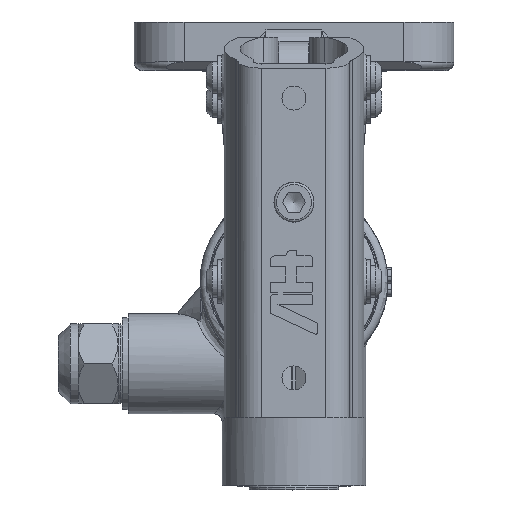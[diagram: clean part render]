
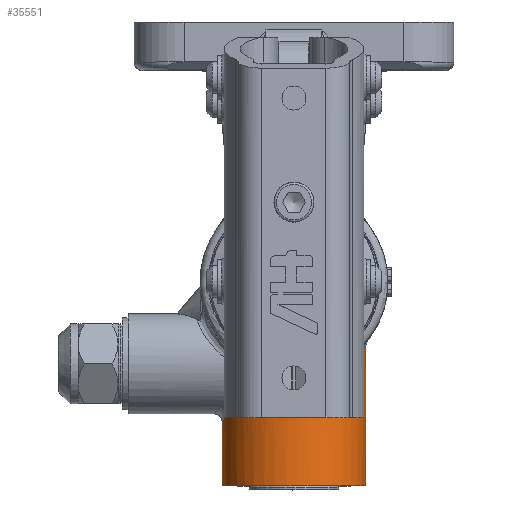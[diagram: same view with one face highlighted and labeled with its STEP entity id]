
A CAD part, top view. The second image highlights one B-rep face of the part: STEP entity #35551.
In plain terms, the highlighted cylindrical face has radius 18 mm (diameter 36 mm), a full revolution.
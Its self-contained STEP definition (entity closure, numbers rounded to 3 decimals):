
#16715=CARTESIAN_POINT('',(-18.,-51.,117.5));
#16716=VERTEX_POINT('',#16715);
#16717=CARTESIAN_POINT('',(0.,-51.,117.5));
#16718=DIRECTION('',(0.0,-1.0,0.0));
#16719=DIRECTION('',(1.0,0.0,0.0));
#16720=AXIS2_PLACEMENT_3D('',#16717,#16718,#16719);
#16721=CIRCLE('',#16720,18.0);
#16722=EDGE_CURVE('',#16716,#16716,#16721,.T.);
#32867=CARTESIAN_POINT('',(-12.426,-21.439,104.477));
#32868=VERTEX_POINT('',#32867);
#33008=CARTESIAN_POINT('',(6.839,-24.341,134.15));
#33009=VERTEX_POINT('',#33008);
#33017=CARTESIAN_POINT('',(6.839,-24.341,134.15));
#33018=CARTESIAN_POINT('',(8.967,-23.603,133.276));
#33019=CARTESIAN_POINT('',(11.46,-22.228,131.619));
#33020=CARTESIAN_POINT('',(14.392,-19.937,128.475));
#33021=CARTESIAN_POINT('',(15.966,-18.365,126.035));
#33022=CARTESIAN_POINT('',(16.877,-17.285,123.816));
#33023=CARTESIAN_POINT('',(17.337,-16.711,122.386));
#33024=CARTESIAN_POINT('',(17.781,-16.13,120.64));
#33025=CARTESIAN_POINT('',(18.09,-15.691,117.956));
#33026=CARTESIAN_POINT('',(17.882,-15.989,114.752));
#33027=CARTESIAN_POINT('',(17.213,-16.888,112.02));
#33028=CARTESIAN_POINT('',(16.468,-17.771,110.18));
#33029=CARTESIAN_POINT('',(15.154,-19.209,107.567));
#33030=CARTESIAN_POINT('',(12.985,-21.217,104.699));
#33031=CARTESIAN_POINT('',(9.948,-23.051,102.399));
#33032=CARTESIAN_POINT('',(7.293,-24.22,100.989));
#33033=CARTESIAN_POINT('',(4.398,-25.167,99.879));
#33034=CARTESIAN_POINT('',(0.015,-25.689,99.285));
#33035=CARTESIAN_POINT('',(-3.964,-25.22,99.819));
#33036=CARTESIAN_POINT('',(-8.366,-23.935,101.323));
#33037=CARTESIAN_POINT('',(-10.863,-22.557,102.986));
#33038=CARTESIAN_POINT('',(-12.426,-21.439,104.477));
#33039=B_SPLINE_CURVE_WITH_KNOTS('',3,(#33017,#33018,#33019,#33020,#33021,#33022,#33023,#33024,#33025,#33026,#33027,#33028,#33029,#33030,#33031,#33032,#33033,#33034,#33035,#33036,#33037,#33038),.UNSPECIFIED.,.F.,.U.,(4,1,1,1,1,1,1,1,1,1,1,1,1,1,1,1,1,1,1,4),(10.682,11.475,11.739,12.267,12.531,12.597,12.795,13.147,13.499,13.851,14.116,14.204,14.908,15.436,15.568,15.964,16.492,17.02,17.285,18.077),.UNSPECIFIED.);
#33040=EDGE_CURVE('',#33009,#32868,#33039,.T.);
#35296=CARTESIAN_POINT('',(-12.426,-21.439,130.523));
#35297=VERTEX_POINT('',#35296);
#35337=CARTESIAN_POINT('',(-6.839,-24.341,134.15));
#35338=VERTEX_POINT('',#35337);
#35348=CARTESIAN_POINT('',(-12.426,-21.439,130.523));
#35349=CARTESIAN_POINT('',(-10.851,-22.566,132.026));
#35350=CARTESIAN_POINT('',(-8.974,-23.601,133.273));
#35351=CARTESIAN_POINT('',(-6.839,-24.341,134.15));
#35352=B_SPLINE_CURVE_WITH_KNOTS('',3,(#35348,#35349,#35350,#35351),.UNSPECIFIED.,.F.,.U.,(4,4),(8.316,9.111),.UNSPECIFIED.);
#35353=EDGE_CURVE('',#35297,#35338,#35352,.T.);
#35392=CARTESIAN_POINT('',(-6.839,-24.341,134.15));
#35393=CARTESIAN_POINT('',(-5.643,-24.756,134.642));
#35394=CARTESIAN_POINT('',(-3.028,-25.182,135.393));
#35395=CARTESIAN_POINT('',(1.695,-25.263,135.661));
#35396=CARTESIAN_POINT('',(5.044,-24.964,134.887));
#35397=CARTESIAN_POINT('',(6.839,-24.341,134.15));
#35398=B_SPLINE_CURVE_WITH_KNOTS('',3,(#35392,#35393,#35394,#35395,#35396,#35397),.UNSPECIFIED.,.F.,.U.,(4,1,1,4),(-1.571,-1.122,-0.673,0.),.UNSPECIFIED.);
#35399=EDGE_CURVE('',#35338,#33009,#35398,.T.);
#35466=CARTESIAN_POINT('',(-12.426,-21.439,104.477));
#35467=CARTESIAN_POINT('',(-12.468,-22.128,104.518));
#35468=CARTESIAN_POINT('',(-12.559,-22.811,104.603));
#35469=CARTESIAN_POINT('',(-12.685,-23.468,104.728));
#35470=CARTESIAN_POINT('',(-12.956,-24.883,104.996));
#35471=CARTESIAN_POINT('',(-13.396,-26.227,105.453));
#35472=CARTESIAN_POINT('',(-13.885,-27.439,106.046));
#35473=CARTESIAN_POINT('',(-13.968,-27.644,106.146));
#35474=CARTESIAN_POINT('',(-14.052,-27.845,106.25));
#35475=CARTESIAN_POINT('',(-14.137,-28.042,106.358));
#35476=CARTESIAN_POINT('',(-14.789,-29.557,107.186));
#35477=CARTESIAN_POINT('',(-15.518,-30.899,108.264));
#35478=CARTESIAN_POINT('',(-16.146,-31.986,109.54));
#35479=CARTESIAN_POINT('',(-16.181,-32.045,109.609));
#35480=CARTESIAN_POINT('',(-16.214,-32.103,109.679));
#35481=CARTESIAN_POINT('',(-16.248,-32.161,109.75));
#35482=CARTESIAN_POINT('',(-16.912,-33.301,111.147));
#35483=CARTESIAN_POINT('',(-17.471,-34.18,112.8));
#35484=CARTESIAN_POINT('',(-17.764,-34.636,114.599));
#35485=CARTESIAN_POINT('',(-17.918,-34.874,115.542));
#35486=CARTESIAN_POINT('',(-17.998,-34.997,116.527));
#35487=CARTESIAN_POINT('',(-17.999,-34.998,117.5));
#35488=CARTESIAN_POINT('',(-18.,-34.999,117.826));
#35489=CARTESIAN_POINT('',(-17.992,-34.985,118.153));
#35490=CARTESIAN_POINT('',(-17.974,-34.959,118.479));
#35491=CARTESIAN_POINT('',(-17.944,-34.912,119.047));
#35492=CARTESIAN_POINT('',(-17.886,-34.822,119.612));
#35493=CARTESIAN_POINT('',(-17.803,-34.695,120.162));
#35494=CARTESIAN_POINT('',(-17.791,-34.676,120.241));
#35495=CARTESIAN_POINT('',(-17.779,-34.657,120.32));
#35496=CARTESIAN_POINT('',(-17.766,-34.637,120.399));
#35497=CARTESIAN_POINT('',(-17.531,-34.274,121.829));
#35498=CARTESIAN_POINT('',(-17.121,-33.634,123.192));
#35499=CARTESIAN_POINT('',(-16.631,-32.815,124.383));
#35500=CARTESIAN_POINT('',(-16.478,-32.559,124.754));
#35501=CARTESIAN_POINT('',(-16.316,-32.284,125.113));
#35502=CARTESIAN_POINT('',(-16.146,-31.99,125.457));
#35503=CARTESIAN_POINT('',(-15.6,-31.043,126.569));
#35504=CARTESIAN_POINT('',(-14.98,-29.907,127.524));
#35505=CARTESIAN_POINT('',(-14.402,-28.642,128.295));
#35506=CARTESIAN_POINT('',(-14.225,-28.256,128.53));
#35507=CARTESIAN_POINT('',(-14.052,-27.855,128.75));
#35508=CARTESIAN_POINT('',(-13.883,-27.44,128.954));
#35509=CARTESIAN_POINT('',(-13.525,-26.554,129.389));
#35510=CARTESIAN_POINT('',(-13.193,-25.604,129.75));
#35511=CARTESIAN_POINT('',(-12.937,-24.606,130.016));
#35512=CARTESIAN_POINT('',(-12.679,-23.603,130.282));
#35513=CARTESIAN_POINT('',(-12.493,-22.525,130.459));
#35514=CARTESIAN_POINT('',(-12.426,-21.439,130.523));
#35515=B_SPLINE_CURVE_WITH_KNOTS('',3,(#35466,#35467,#35468,#35469,#35470,#35471,#35472,#35473,#35474,#35475,#35476,#35477,#35478,#35479,#35480,#35481,#35482,#35483,#35484,#35485,#35486,#35487,#35488,#35489,#35490,#35491,#35492,#35493,#35494,#35495,#35496,#35497,#35498,#35499,#35500,#35501,#35502,#35503,#35504,#35505,#35506,#35507,#35508,#35509,#35510,#35511,#35512,#35513,#35514),.UNSPECIFIED.,.F.,.U.,(4,3,3,3,3,3,3,3,3,3,3,3,3,3,3,3,4),(-11.735,-11.529,-11.086,-11.011,-10.437,-10.405,-9.787,-9.462,-9.354,-9.164,-9.137,-8.642,-8.488,-7.991,-7.839,-7.515,-7.19),.UNSPECIFIED.);
#35516=EDGE_CURVE('',#32868,#35297,#35515,.T.);
#35537=CARTESIAN_POINT('',(0.,-52.0,117.5));
#35538=DIRECTION('',(0.0,1.0,0.0));
#35539=DIRECTION('',(1.0,0.0,0.0));
#35540=AXIS2_PLACEMENT_3D('',#35537,#35538,#35539);
#35541=CYLINDRICAL_SURFACE('',#35540,18.0);
#35542=ORIENTED_EDGE('',*,*,#16722,.F.);
#35543=EDGE_LOOP('',(#35542));
#35544=FACE_OUTER_BOUND('',#35543,.T.);
#35545=ORIENTED_EDGE('',*,*,#35353,.F.);
#35546=ORIENTED_EDGE('',*,*,#35516,.F.);
#35547=ORIENTED_EDGE('',*,*,#33040,.F.);
#35548=ORIENTED_EDGE('',*,*,#35399,.F.);
#35549=EDGE_LOOP('',(#35545,#35546,#35547,#35548));
#35550=FACE_BOUND('',#35549,.T.);
#35551=ADVANCED_FACE('',(#35544,#35550),#35541,.T.);
